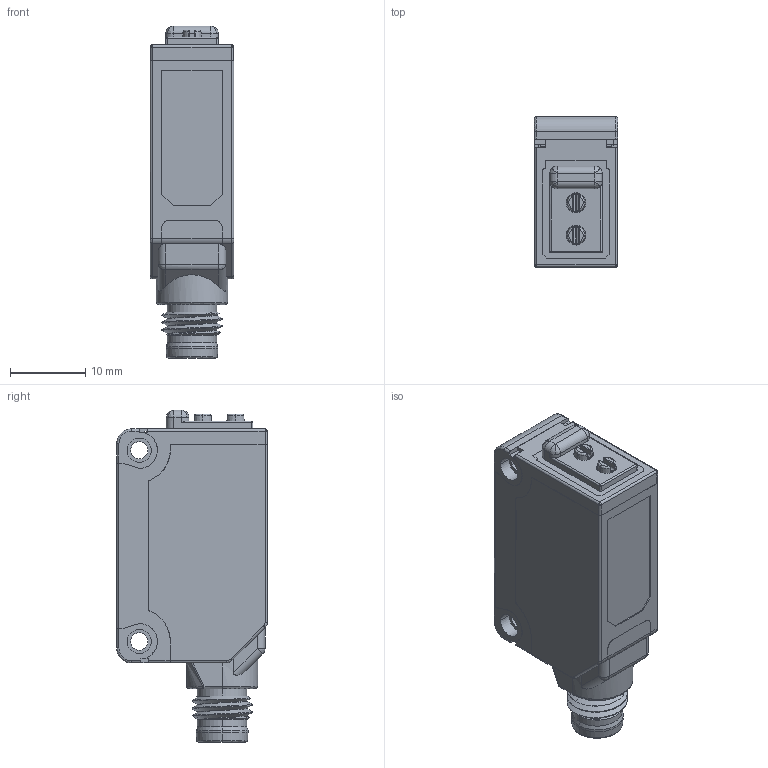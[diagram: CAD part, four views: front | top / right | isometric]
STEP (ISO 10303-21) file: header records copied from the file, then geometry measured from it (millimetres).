
FILE_DESCRIPTION (( 'STEP AP214' ), '1' );
FILE_NAME ('PF31脣璃宒.STEP', '2025-08-21T11:17:32', ( 'Windows User' ), ( 'P R C' ), 'SwSTEP 2.0', 'SolidWorks 2023', '' );
FILE_SCHEMA (( 'AUTOMOTIVE_DESIGN' ));
Length unit declared in the file: millimetre
Products named in the file (12): PF31-KETI_EE_2; PF31-TOUJING_EE_2; ROU-PCB_EE_2; PF31-E-CHAJIAN_EE_4; PCB_EE_2; PF31-CHAJIAN-RR_EE_4; BAOJIAO_EE_2; PF31-DENGHZAO_EE_2; PF31-CHAZHEN_EE_4; TIAOJIEB_J_EE_2; PF31插件式; PF31-DUISHE_J_EE_2
Assembly tree (15 placements, depth 2):
  PF31插件式
    PF31-KETI_EE_2
    PF31-E-CHAJIAN_EE_4
    PF31-DUISHE_J_EE_2
    PF31-CHAZHEN_EE_4  x4
    PF31-DENGHZAO_EE_2
    PF31-TOUJING_EE_2
    TIAOJIEB_J_EE_2  x2
    PCB_EE_2
    ROU-PCB_EE_2
    BAOJIAO_EE_2
    PF31-CHAJIAN-RR_EE_4
Bounding box: 11.1 x 20 x 44.1 mm (x, y, z)
Volume: 4669 mm3; surface area: 10422.6 mm2
Topology: 24 solids, 26 shells, 1804 faces, 4887 edges, 3142 vertices
Faces by surface type: plane 1148, cylinder 441, bspline 146, cone 53, torus 16
Entity records: 60968 total; most frequent: CARTESIAN_POINT 19038, ORIENTED_EDGE 9216, DIRECTION 7686, EDGE_CURVE 4608, LINE 3302, VECTOR 3302, VERTEX_POINT 3002, AXIS2_PLACEMENT_3D 2192
